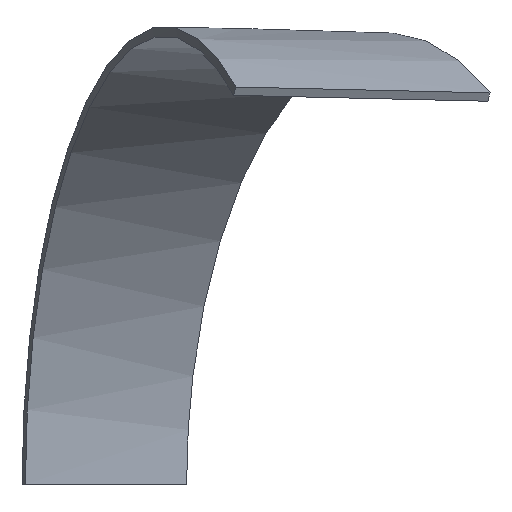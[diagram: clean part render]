
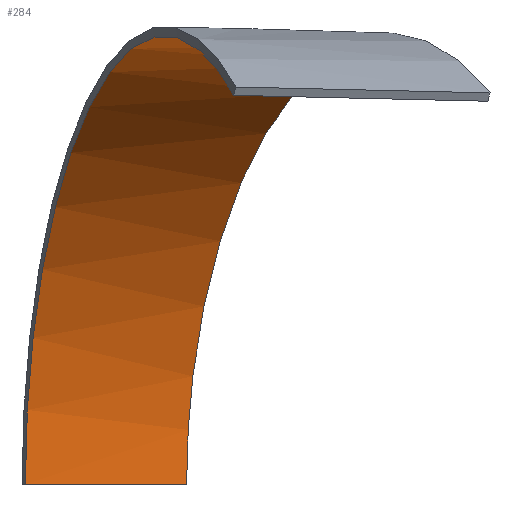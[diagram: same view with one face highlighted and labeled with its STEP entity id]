
A CAD part, front view. The second image highlights one B-rep face of the part: STEP entity #284.
In plain terms, the highlighted free-form (B-spline) face has degree [3, 1] with [10, 2] control points.
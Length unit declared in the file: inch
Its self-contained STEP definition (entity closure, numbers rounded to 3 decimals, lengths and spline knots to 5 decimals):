
#14 = CARTESIAN_POINT ( 'NONE',  ( 42.46601, -130.69693, 30.42732 ) ) ;
#15 = ORIENTED_EDGE ( 'NONE', *, *, #157, .F. ) ;
#16 = CARTESIAN_POINT ( 'NONE',  ( 26.2472, -80.78057, 0.125 ) ) ;
#17 = CARTESIAN_POINT ( 'NONE',  ( 26.2472, -80.78057, 0.125 ) ) ;
#18 = CARTESIAN_POINT ( 'NONE',  ( 26.75782, -82.35211, 12.27916 ) ) ;
#20 = CARTESIAN_POINT ( 'NONE',  ( 62.26809, -122.20801, 29.96724 ) ) ;
#21 = CARTESIAN_POINT ( 'NONE',  ( 62.26809, -122.20801, 29.96724 ) ) ;
#22 = CARTESIAN_POINT ( 'NONE',  ( 28.65899, -88.2033, 22.89154 ) ) ;
#26 = CARTESIAN_POINT ( 'NONE',  ( 42.46601, -130.69693, 30.42732 ) ) ;
#28 = CARTESIAN_POINT ( 'NONE',  ( 42.29189, -83.0025, 22.54515 ) ) ;
#31 = CARTESIAN_POINT ( 'NONE',  ( 42.46601, -130.69693, 30.42732 ) ) ;
#37 = B_SPLINE_CURVE_WITH_KNOTS ( 'NONE', 3,
 ( #160, #236, #316, #16 ),
 .UNSPECIFIED., .F., .F.,
 ( 4, 4 ),
 ( 0., 1. ),
 .UNSPECIFIED. ) ;
#39 = VERTEX_POINT ( 'NONE', #31 ) ;
#42 = CARTESIAN_POINT ( 'NONE',  ( 33.30598, -102.50526, 33.43171 ) ) ;
#43 = CARTESIAN_POINT ( 'NONE',  ( 40.82125, -125.63487, 33.47506 ) ) ;
#46 = B_SPLINE_CURVE_WITH_KNOTS ( 'NONE', 3,
 ( #17, #286, #18, #91, #116, #42, #260, #60, #117, #14 ),
 .UNSPECIFIED., .F., .F.,
 ( 4, 2, 2, 2, 4 ),
 ( 0., 0.25, 0.5, 0.75, 1. ),
 .UNSPECIFIED. ) ;
#50 = CARTESIAN_POINT ( 'NONE',  ( 49.0667, -127.86729, 30.27396 ) ) ;
#60 = CARTESIAN_POINT ( 'NONE',  ( 38.95804, -119.90052, 35.07338 ) ) ;
#61 = CARTESIAN_POINT ( 'NONE',  ( 49.01521, -96.19777, 32.925 ) ) ;
#68 = CARTESIAN_POINT ( 'NONE',  ( 30.02319, -92.40188, 27.29833 ) ) ;
#73 = CARTESIAN_POINT ( 'NONE',  ( 38.81203, -76.1729, 6.16509 ) ) ;
#76 = VERTEX_POINT ( 'NONE', #183 ) ;
#78 = B_SPLINE_CURVE_WITH_KNOTS ( 'NONE', 3,
 ( #200, #50, #293, #147 ),
 .UNSPECIFIED., .F., .F.,
 ( 4, 4 ),
 ( 0., 1. ),
 .UNSPECIFIED. ) ;
#89 = CARTESIAN_POINT ( 'NONE',  ( 38.81203, -76.1729, 6.16509 ) ) ;
#91 = CARTESIAN_POINT ( 'NONE',  ( 28.65899, -88.2033, 22.89154 ) ) ;
#99 = CARTESIAN_POINT ( 'NONE',  ( 38.8021, -76.15342, 0.125 ) ) ;
#116 = CARTESIAN_POINT ( 'NONE',  ( 30.02319, -92.40188, 27.29833 ) ) ;
#117 = CARTESIAN_POINT ( 'NONE',  ( 40.82125, -125.63487, 33.47506 ) ) ;
#119 = CARTESIAN_POINT ( 'NONE',  ( 57.19264, -112.24688, 34.54213 ) ) ;
#123 = CARTESIAN_POINT ( 'NONE',  ( 35.16741, -108.23416, 35.05151 ) ) ;
#134 = CARTESIAN_POINT ( 'NONE',  ( 51.70833, -101.48331, 34.52026 ) ) ;
#137 = CARTESIAN_POINT ( 'NONE',  ( 38.8021, -76.15342, 0.125 ) ) ;
#147 = CARTESIAN_POINT ( 'NONE',  ( 62.26809, -122.20801, 29.96724 ) ) ;
#148 = CARTESIAN_POINT ( 'NONE',  ( 51.70833, -101.48331, 34.52026 ) ) ;
#149 = VERTEX_POINT ( 'NONE', #165 ) ;
#157 = EDGE_CURVE ( 'NONE', #76, #39, #46, .T. ) ;
#160 = CARTESIAN_POINT ( 'NONE',  ( 38.8021, -76.15342, 0.125 ) ) ;
#165 = CARTESIAN_POINT ( 'NONE',  ( 38.8021, -76.15342, 0.125 ) ) ;
#168 = ORIENTED_EDGE ( 'NONE', *, *, #238, .F. ) ;
#172 = CARTESIAN_POINT ( 'NONE',  ( 44.26565, -86.87623, 26.88488 ) ) ;
#175 = CARTESIAN_POINT ( 'NONE',  ( 26.2472, -80.78057, 0.125 ) ) ;
#176 = FACE_OUTER_BOUND ( 'NONE', #267, .T. ) ;
#183 = CARTESIAN_POINT ( 'NONE',  ( 26.2472, -80.78057, 0.125 ) ) ;
#188 = VERTEX_POINT ( 'NONE', #20 ) ;
#193 = ORIENTED_EDGE ( 'NONE', *, *, #311, .F. ) ;
#198 = CARTESIAN_POINT ( 'NONE',  ( 26.25396, -80.80137, 6.25834 ) ) ;
#200 = CARTESIAN_POINT ( 'NONE',  ( 42.46601, -130.69693, 30.42732 ) ) ;
#211 = B_SPLINE_CURVE_WITH_KNOTS ( 'NONE', 3,
 ( #319, #285, #259, #134, #61, #315, #234, #313, #89, #137 ),
 .UNSPECIFIED., .F., .F.,
 ( 4, 2, 2, 2, 4 ),
 ( 0., 0.25, 0.5, 0.75, 1. ),
 .UNSPECIFIED. ) ;
#216 = EDGE_CURVE ( 'NONE', #188, #149, #211, .T. ) ;
#220 = CARTESIAN_POINT ( 'NONE',  ( 39.54113, -77.60385, 12.09429 ) ) ;
#222 = CARTESIAN_POINT ( 'NONE',  ( 59.88836, -117.53753, 32.96835 ) ) ;
#224 = CARTESIAN_POINT ( 'NONE',  ( 26.75782, -82.35211, 12.27916 ) ) ;
#234 = CARTESIAN_POINT ( 'NONE',  ( 42.29189, -83.0025, 22.54515 ) ) ;
#236 = CARTESIAN_POINT ( 'NONE',  ( 34.61714, -77.6958, 0.125 ) ) ;
#238 = EDGE_CURVE ( 'NONE', #149, #76, #37, .T. ) ;
#254 = B_SPLINE_SURFACE_WITH_KNOTS ( 'NONE', 3, 1, ( 
 ( #21, #26 ),
 ( #222, #43 ),
 ( #119, #294 ),
 ( #148, #123 ),
 ( #325, #272 ),
 ( #172, #68 ),
 ( #28, #22 ),
 ( #220, #224 ),
 ( #73, #198 ),
 ( #99, #175 ) ),
 .UNSPECIFIED., .F., .F., .F.,
 ( 4, 2, 2, 2, 4 ),
 ( 2, 2 ),
 ( 0., 0.25, 0.5, 0.75, 1. ),
 ( 0., 1. ),
 .UNSPECIFIED. ) ;
#259 = CARTESIAN_POINT ( 'NONE',  ( 57.19264, -112.24688, 34.54213 ) ) ;
#260 = CARTESIAN_POINT ( 'NONE',  ( 35.16741, -108.23416, 35.05151 ) ) ;
#267 = EDGE_LOOP ( 'NONE', ( #300, #193, #15, #168 ) ) ;
#272 = CARTESIAN_POINT ( 'NONE',  ( 33.30598, -102.50526, 33.43171 ) ) ;
#284 = ADVANCED_FACE ( 'NONE', ( #176 ), #254, .F. ) ;
#285 = CARTESIAN_POINT ( 'NONE',  ( 59.88836, -117.53753, 32.96835 ) ) ;
#286 = CARTESIAN_POINT ( 'NONE',  ( 26.25396, -80.80137, 6.25834 ) ) ;
#293 = CARTESIAN_POINT ( 'NONE',  ( 55.6674, -125.03765, 30.1206 ) ) ;
#294 = CARTESIAN_POINT ( 'NONE',  ( 38.95804, -119.90052, 35.07338 ) ) ;
#300 = ORIENTED_EDGE ( 'NONE', *, *, #216, .F. ) ;
#311 = EDGE_CURVE ( 'NONE', #39, #188, #78, .T. ) ;
#313 = CARTESIAN_POINT ( 'NONE',  ( 39.54113, -77.60385, 12.09429 ) ) ;
#315 = CARTESIAN_POINT ( 'NONE',  ( 44.26565, -86.87623, 26.88488 ) ) ;
#316 = CARTESIAN_POINT ( 'NONE',  ( 30.43217, -79.23819, 0.125 ) ) ;
#319 = CARTESIAN_POINT ( 'NONE',  ( 62.26809, -122.20801, 29.96724 ) ) ;
#325 = CARTESIAN_POINT ( 'NONE',  ( 49.01521, -96.19777, 32.925 ) ) ;
